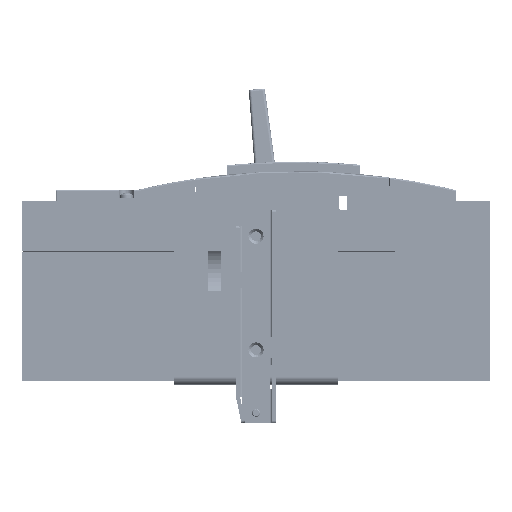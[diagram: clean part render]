
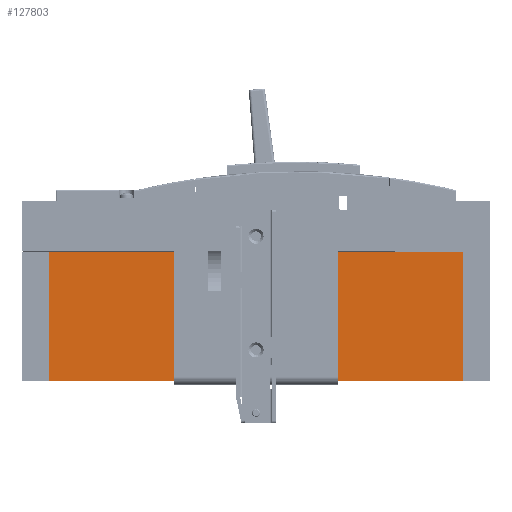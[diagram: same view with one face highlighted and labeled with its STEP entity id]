
A CAD part, left-side view. The second image highlights one B-rep face of the part: STEP entity #127803.
In plain terms, the highlighted planar face has unit normal (-1, 0, 0).
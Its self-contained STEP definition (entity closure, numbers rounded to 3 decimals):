
#65701 = VERTEX_POINT ( 'NONE', #232385 ) ;
#65905 = VERTEX_POINT ( 'NONE', #232661 ) ;
#66176 = EDGE_CURVE ( 'NONE', #65701, #65905, #233270, .T. ) ;
#69018 = VERTEX_POINT ( 'NONE', #241309 ) ;
#69072 = EDGE_CURVE ( 'NONE', #69018, #69316, #241346, .T. ) ;
#69316 = VERTEX_POINT ( 'NONE', #241844 ) ;
#127803 = ADVANCED_FACE ( 'NONE', ( #129869 ), #129811, .F. ) ;
#127810 = EDGE_LOOP ( 'NONE', ( #127819, #127826, #127833, #127839 ) ) ;
#127819 = ORIENTED_EDGE ( 'NONE', *, *, #127964, .T. ) ;
#127826 = ORIENTED_EDGE ( 'NONE', *, *, #66176, .T. ) ;
#127833 = ORIENTED_EDGE ( 'NONE', *, *, #127836, .F. ) ;
#127836 = EDGE_CURVE ( 'NONE', #69316, #65905, #129969, .T. ) ;
#127839 = ORIENTED_EDGE ( 'NONE', *, *, #69072, .F. ) ;
#127964 = EDGE_CURVE ( 'NONE', #69018, #65701, #130538, .T. ) ;
#128241 = DIRECTION ( 'NONE',  ( 1., 0., 0. ) ) ;
#129030 = DIRECTION ( 'NONE',  ( 0., 0., -1. ) ) ;
#129805 = CARTESIAN_POINT ( 'NONE',  ( -128.283, 66.423, 95. ) ) ;
#129806 = AXIS2_PLACEMENT_3D ( 'NONE', #129805, #128241, #129030 ) ;
#129811 = PLANE ( 'NONE',  #129806 ) ;
#129869 = FACE_OUTER_BOUND ( 'NONE', #127810, .T. ) ;
#129962 = DIRECTION ( 'NONE',  ( 0., 0., -1. ) ) ;
#129963 = VECTOR ( 'NONE', #129962, 1000. ) ;
#129966 = CARTESIAN_POINT ( 'NONE',  ( -128.283, 66.423, 95. ) ) ;
#129969 = LINE ( 'NONE', #129966, #129963 ) ;
#130524 = DIRECTION ( 'NONE',  ( 0., 0., -1. ) ) ;
#130527 = VECTOR ( 'NONE', #130524, 1000. ) ;
#130531 = CARTESIAN_POINT ( 'NONE',  ( -128.283, 376.423, 95. ) ) ;
#130538 = LINE ( 'NONE', #130531, #130527 ) ;
#232385 = CARTESIAN_POINT ( 'NONE',  ( -128.283, 376.423, -1.5 ) ) ;
#232661 = CARTESIAN_POINT ( 'NONE',  ( -128.283, 66.423, -1.5 ) ) ;
#233266 = DIRECTION ( 'NONE',  ( 0., -1., 0. ) ) ;
#233268 = VECTOR ( 'NONE', #233266, 1000. ) ;
#233269 = CARTESIAN_POINT ( 'NONE',  ( -128.283, 66.423, -1.5 ) ) ;
#233270 = LINE ( 'NONE', #233269, #233268 ) ;
#241309 = CARTESIAN_POINT ( 'NONE',  ( -128.283, 376.423, 95. ) ) ;
#241341 = DIRECTION ( 'NONE',  ( 0., -1., 0. ) ) ;
#241343 = VECTOR ( 'NONE', #241341, 1000. ) ;
#241345 = CARTESIAN_POINT ( 'NONE',  ( -128.283, 66.423, 95. ) ) ;
#241346 = LINE ( 'NONE', #241345, #241343 ) ;
#241844 = CARTESIAN_POINT ( 'NONE',  ( -128.283, 66.423, 95. ) ) ;
